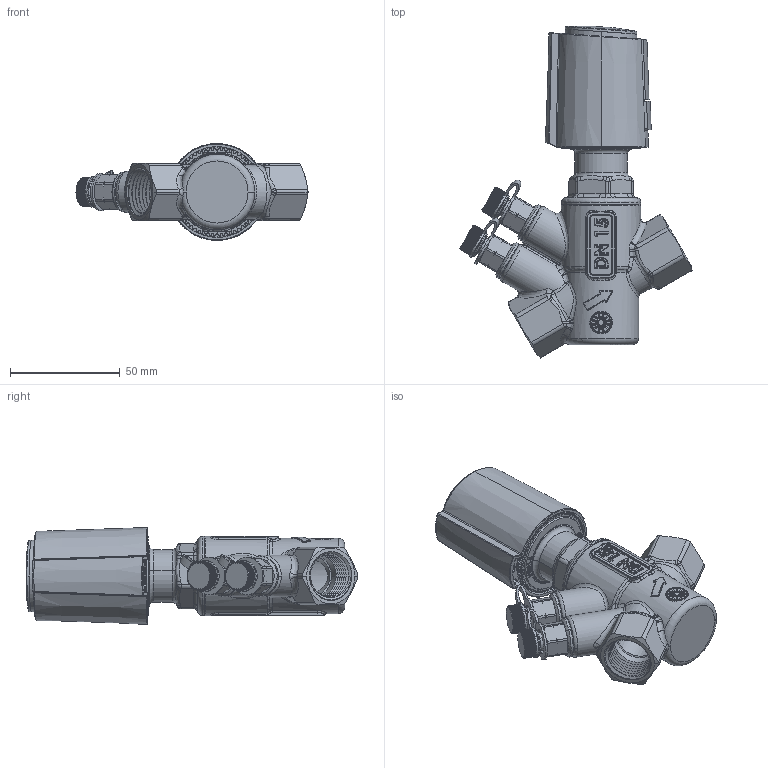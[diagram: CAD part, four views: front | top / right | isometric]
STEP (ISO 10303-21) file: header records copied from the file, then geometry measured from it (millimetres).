
FILE_DESCRIPTION (( 'STEP AP203' ), '1' );
FILE_NAME ('EVS AB-House DN15 ISO FF PT-plugs EV.0.3 Act..step', '2024-04-29T08:14:53', ( '' ), ( '' ), 'SwSTEP 2.0', 'SolidWorks 2023', '' );
FILE_SCHEMA (( 'CONFIG_CONTROL_DESIGN' ));
Length unit declared in the file: millimetre
Products named in the file (1): EVS AB-House DN15 ISO FF PT-plugs EV.0.3 Act.
Bounding box: 105.48 x 150.9 x 44.07 mm (x, y, z)
Surface area: 44212.1 mm2 (no closed solid volume)
Topology: 0 solids, 27 shells, 3125 faces, 14798 edges, 10735 vertices
Faces by surface type: cylinder 1222, bspline 1196, plane 308, torus 191, cone 142, sphere 66
Entity records: 415668 total; most frequent: CARTESIAN_POINT 327095, ORIENTED_EDGE 21215, EDGE_CURVE 14731, B_SPLINE_CURVE_WITH_KNOTS 11008, VERTEX_POINT 10712, DIRECTION 9382, AXIS2_PLACEMENT_3D 3903, EDGE_LOOP 3204
